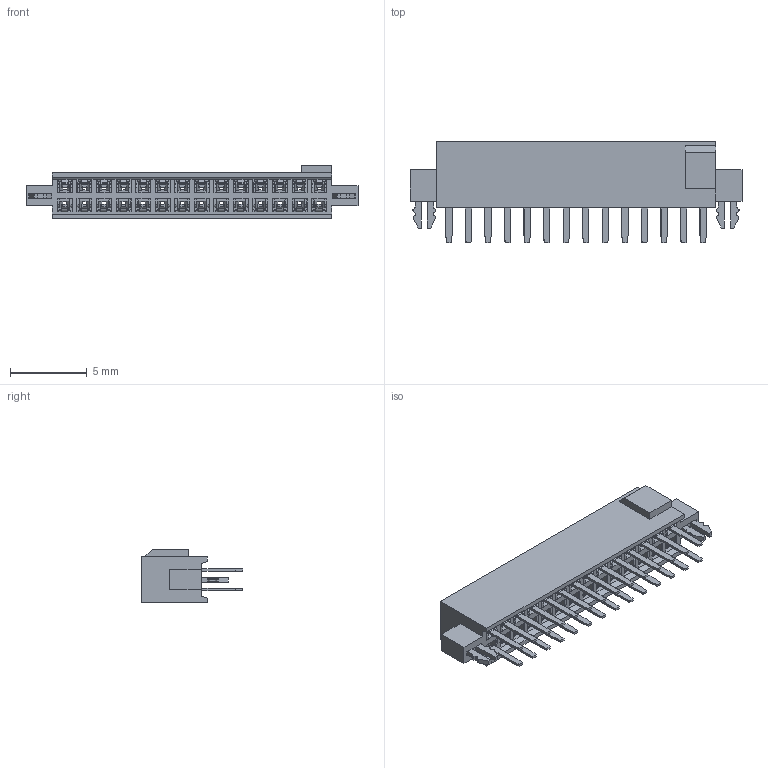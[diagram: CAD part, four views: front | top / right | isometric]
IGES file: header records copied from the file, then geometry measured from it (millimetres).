
Start section: SolidWorks IGES file using analytic representation for surfaces
Global section: file name: D:\RD\品管\3DS\未歸檔資料\2243-28C00SL3U\2243-28C00SL3U.IGS; native system: SolidWorks 2011; preprocessor: SolidWorks 2011; author: rd03; date: 150526.145626; units: millimetre
Bounding box: 21.56 x 6.6 x 3.5 mm (x, y, z)
Surface area: 1164.1 mm2 (no closed solid volume)
Topology: 0 solids, 0 shells, 3935 faces, 25774 edges, 25774 vertices
Faces by surface type: bspline 2439, revolution 1496
